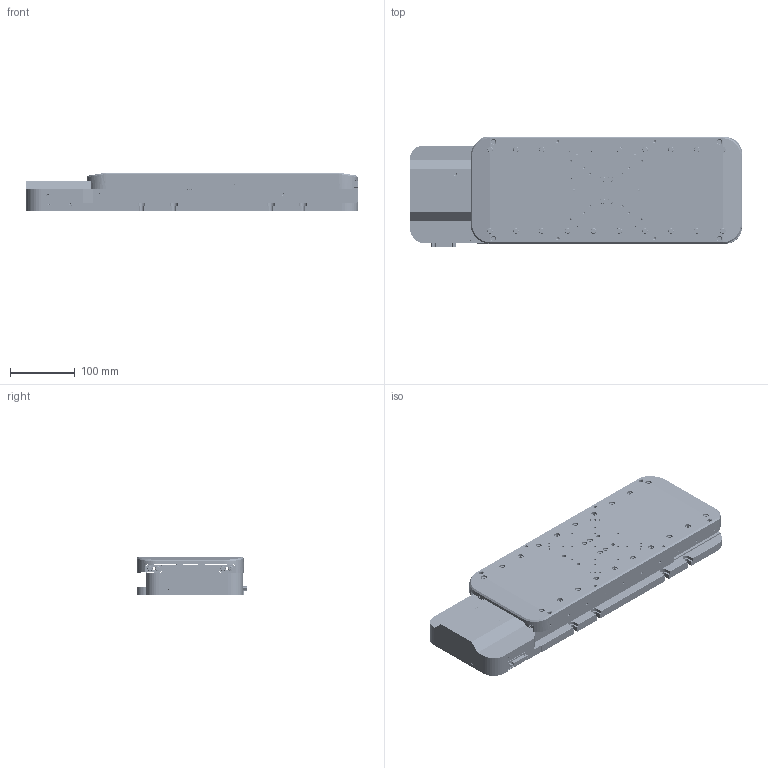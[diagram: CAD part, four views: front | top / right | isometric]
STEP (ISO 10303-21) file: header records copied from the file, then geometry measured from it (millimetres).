
FILE_DESCRIPTION(/* description */ (''),/* implementation_level */ '2;1');
FILE_NAME(/* name */ 'Z:\3DDATA\4_開発\KSTリニューアル\図面\HST-200X\HST-200X_STP.stp',/* time_stamp */ '2015-04-23T08:48:09+09:00',/* author */ ('s.makino'),/* organization */ (''),/* preprocessor_version */ 'ST-DEVELOPER v15.2',/* originating_system */ 'Autodesk Inventor 2014',/* authorisation */ '');
FILE_SCHEMA (('AUTOMOTIVE_DESIGN { 1 0 10303 214 3 1 1 }'));
Products named in the file (3): HST200-M02-15001-S22; HST200-M02-15001-S20; HST200-M02-15001-TS01
Bounding box: 514 x 170.2 x 60 mm (x, y, z)
Volume: 2443568.9 mm3; surface area: 706132.6 mm2
Topology: 2 solids, 210 shells, 4551 faces, 11321 edges, 7439 vertices
Faces by surface type: plane 2943, cylinder 1033, cone 527, torus 40, bspline 8
Full cylindrical faces by diameter (mm): 1 x5, 1.45 x4, 1.47 x2, 1.567 x6, 1.6 x22, 1.8 x2, 2 x12, 2.113 x10, 2.2 x34, 2.4 x6, 2.459 x24, 2.5 x6, 2.6 x26, 3 x62, 3.1 x16, 3.2 x10, 3.242 x47, 3.3 x1, 3.5 x6, 3.7 x8, 3.8 x4, 4 x59, 4.134 x4, 4.2 x9, 4.3 x20, 4.5 x6, 5 x60, 5.5 x19, 5.7 x1, 6 x30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
Entity records: 125362 total; most frequent: CARTESIAN_POINT 22773, DIRECTION 21108, ORIENTED_EDGE 19344, EDGE_CURVE 9672, AXIS2_PLACEMENT_3D 7253, VERTEX_POINT 6902, LINE 6602, VECTOR 6602
